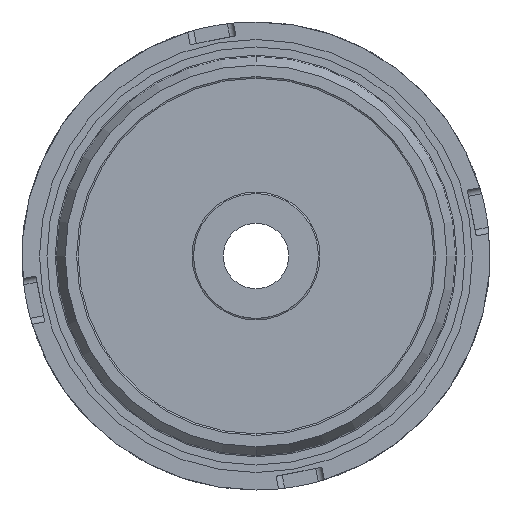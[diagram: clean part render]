
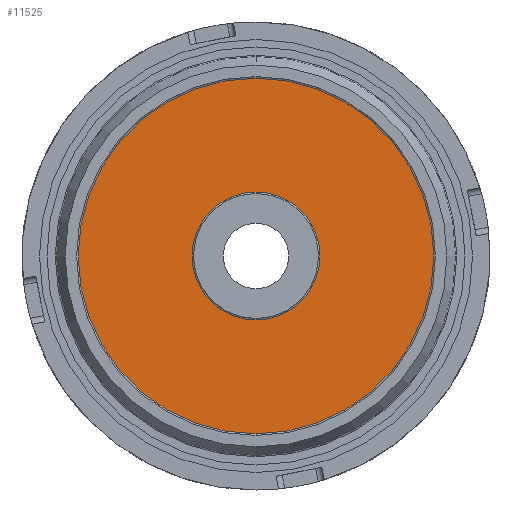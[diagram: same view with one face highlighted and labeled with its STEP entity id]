
A CAD part, front view. The second image highlights one B-rep face of the part: STEP entity #11525.
In plain terms, the highlighted planar face has unit normal (0, -1, 0).
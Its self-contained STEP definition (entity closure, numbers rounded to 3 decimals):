
#897 = EDGE_CURVE ( 'NONE', #34217, #64705, #53834, .T. ) ;
#2579 = FACE_BOUND ( 'NONE', #64445, .T. ) ;
#2827 = DIRECTION ( 'NONE',  ( 0., 1., 0. ) ) ;
#6038 = CARTESIAN_POINT ( 'NONE',  ( 0., 6., 20.5 ) ) ;
#7133 = CIRCLE ( 'NONE', #36194, 57. ) ;
#7587 = CIRCLE ( 'NONE', #9951, 20.5 ) ;
#9951 = AXIS2_PLACEMENT_3D ( 'NONE', #56568, #25626, #61652 ) ;
#10736 = VERTEX_POINT ( 'NONE', #64833 ) ;
#11525 = ADVANCED_FACE ( 'NONE', ( #30132, #2579 ), #30300, .T. ) ;
#17043 = CARTESIAN_POINT ( 'NONE',  ( 0., 6., -57. ) ) ;
#21108 = DIRECTION ( 'NONE',  ( 0., 0., -1. ) ) ;
#21933 = DIRECTION ( 'NONE',  ( 0., -1., 0. ) ) ;
#22086 = AXIS2_PLACEMENT_3D ( 'NONE', #30184, #29403, #29393 ) ;
#22140 = CARTESIAN_POINT ( 'NONE',  ( 0., 6., 0. ) ) ;
#25626 = DIRECTION ( 'NONE',  ( 0., 1., 0. ) ) ;
#27824 = CARTESIAN_POINT ( 'NONE',  ( 0., 6., 0. ) ) ;
#29393 = DIRECTION ( 'NONE',  ( 0., 0., -1. ) ) ;
#29403 = DIRECTION ( 'NONE',  ( 0., -1., 0. ) ) ;
#30132 = FACE_OUTER_BOUND ( 'NONE', #57779, .T. ) ;
#30184 = CARTESIAN_POINT ( 'NONE',  ( 0., 6., 0. ) ) ;
#30300 = PLANE ( 'NONE',  #22086 ) ;
#31999 = ORIENTED_EDGE ( 'NONE', *, *, #38967, .T. ) ;
#33036 = DIRECTION ( 'NONE',  ( 0., 0., -1. ) ) ;
#33791 = CARTESIAN_POINT ( 'NONE',  ( 0., 6., 0. ) ) ;
#34170 = EDGE_CURVE ( 'NONE', #45477, #10736, #7587, .T. ) ;
#34217 = VERTEX_POINT ( 'NONE', #41833 ) ;
#36194 = AXIS2_PLACEMENT_3D ( 'NONE', #27824, #63799, #33036 ) ;
#38952 = DIRECTION ( 'NONE',  ( 0., 0., -1. ) ) ;
#38967 = EDGE_CURVE ( 'NONE', #10736, #45477, #53113, .T. ) ;
#40495 = ORIENTED_EDGE ( 'NONE', *, *, #58376, .T. ) ;
#41072 = AXIS2_PLACEMENT_3D ( 'NONE', #22140, #21933, #21108 ) ;
#41833 = CARTESIAN_POINT ( 'NONE',  ( 0., 6., 57. ) ) ;
#43986 = ORIENTED_EDGE ( 'NONE', *, *, #897, .T. ) ;
#45477 = VERTEX_POINT ( 'NONE', #6038 ) ;
#51760 = AXIS2_PLACEMENT_3D ( 'NONE', #33791, #2827, #38952 ) ;
#53113 = CIRCLE ( 'NONE', #51760, 20.5 ) ;
#53834 = CIRCLE ( 'NONE', #41072, 57. ) ;
#56568 = CARTESIAN_POINT ( 'NONE',  ( 0., 6., 0. ) ) ;
#57779 = EDGE_LOOP ( 'NONE', ( #40495, #43986 ) ) ;
#58376 = EDGE_CURVE ( 'NONE', #64705, #34217, #7133, .T. ) ;
#61652 = DIRECTION ( 'NONE',  ( 0., 0., -1. ) ) ;
#63799 = DIRECTION ( 'NONE',  ( 0., -1., 0. ) ) ;
#64027 = ORIENTED_EDGE ( 'NONE', *, *, #34170, .T. ) ;
#64445 = EDGE_LOOP ( 'NONE', ( #31999, #64027 ) ) ;
#64705 = VERTEX_POINT ( 'NONE', #17043 ) ;
#64833 = CARTESIAN_POINT ( 'NONE',  ( 0., 6., -20.5 ) ) ;
